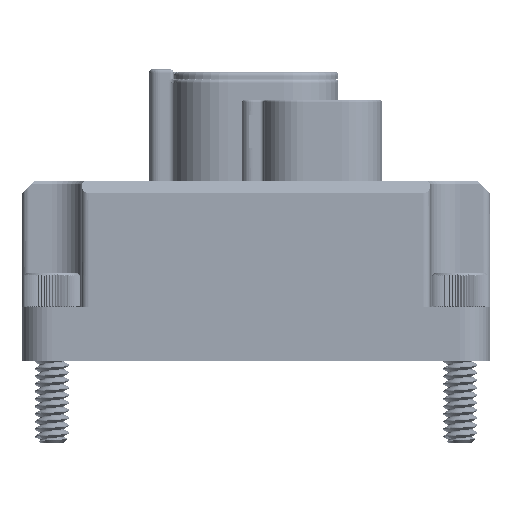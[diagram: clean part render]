
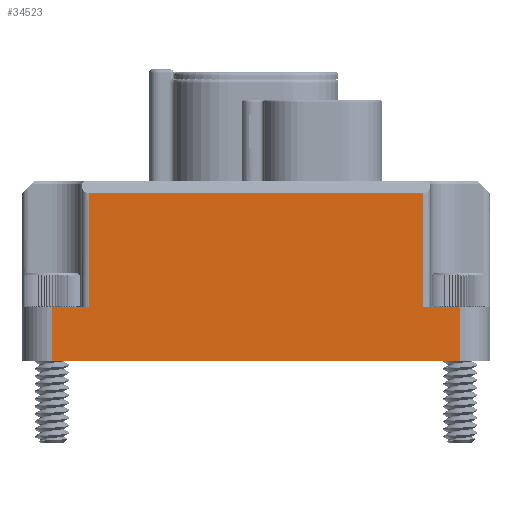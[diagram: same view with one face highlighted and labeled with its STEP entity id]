
A CAD part, front view. The second image highlights one B-rep face of the part: STEP entity #34523.
In plain terms, the highlighted planar face has unit normal (0, -1, 0).
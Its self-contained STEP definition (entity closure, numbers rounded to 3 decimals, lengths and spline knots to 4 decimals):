
#5664=FACE_OUTER_BOUND('',#7802,.T.);
#7802=EDGE_LOOP('',(#29452,#29453,#29454,#29455,#29456,#29457,#29458,#29459));
#10352=LINE('',#71145,#12938);
#10354=LINE('',#71151,#12940);
#10356=LINE('',#71157,#12942);
#10357=LINE('',#71159,#12943);
#10358=LINE('',#71161,#12944);
#10359=LINE('',#71163,#12945);
#10360=LINE('',#71165,#12946);
#10361=LINE('',#71166,#12947);
#12938=VECTOR('',#46745,0.3937);
#12940=VECTOR('',#46751,0.3937);
#12942=VECTOR('',#46757,0.3937);
#12943=VECTOR('',#46758,0.3937);
#12944=VECTOR('',#46759,0.3937);
#12945=VECTOR('',#46760,0.3937);
#12946=VECTOR('',#46761,0.3937);
#12947=VECTOR('',#46762,0.3937);
#15871=VERTEX_POINT('',#71142);
#15872=VERTEX_POINT('',#71144);
#15874=VERTEX_POINT('',#71150);
#15876=VERTEX_POINT('',#71156);
#15877=VERTEX_POINT('',#71158);
#15878=VERTEX_POINT('',#71160);
#15879=VERTEX_POINT('',#71162);
#15880=VERTEX_POINT('',#71164);
#20546=EDGE_CURVE('',#15871,#15872,#10352,.T.);
#20549=EDGE_CURVE('',#15874,#15872,#10354,.T.);
#20552=EDGE_CURVE('',#15876,#15871,#10356,.T.);
#20553=EDGE_CURVE('',#15876,#15877,#10357,.T.);
#20554=EDGE_CURVE('',#15878,#15877,#10358,.T.);
#20555=EDGE_CURVE('',#15878,#15879,#10359,.F.);
#20556=EDGE_CURVE('',#15879,#15880,#10360,.T.);
#20557=EDGE_CURVE('',#15880,#15874,#10361,.T.);
#29452=ORIENTED_EDGE('',*,*,#20546,.F.);
#29453=ORIENTED_EDGE('',*,*,#20552,.F.);
#29454=ORIENTED_EDGE('',*,*,#20553,.T.);
#29455=ORIENTED_EDGE('',*,*,#20554,.F.);
#29456=ORIENTED_EDGE('',*,*,#20555,.T.);
#29457=ORIENTED_EDGE('',*,*,#20556,.T.);
#29458=ORIENTED_EDGE('',*,*,#20557,.T.);
#29459=ORIENTED_EDGE('',*,*,#20549,.T.);
#32856=PLANE('',#37898);
#34523=ADVANCED_FACE('',(#5664),#32856,.T.);
#37898=AXIS2_PLACEMENT_3D('',#71155,#46755,#46756);
#46745=DIRECTION('',(1.,0.,0.));
#46751=DIRECTION('',(0.,0.,1.));
#46755=DIRECTION('center_axis',(0.,-1.,0.));
#46756=DIRECTION('ref_axis',(1.,0.,0.));
#46757=DIRECTION('',(0.,0.,1.));
#46758=DIRECTION('',(-1.,0.,0.));
#46759=DIRECTION('',(0.,0.,1.));
#46760=DIRECTION('',(-1.,0.,0.));
#46761=DIRECTION('',(0.,0.,1.));
#46762=DIRECTION('',(-1.,0.,0.));
#71142=CARTESIAN_POINT('',(-0.925,-5.1551,-0.671));
#71144=CARTESIAN_POINT('',(0.925,-5.1551,-0.671));
#71145=CARTESIAN_POINT('',(-0.565,-5.1551,-0.671));
#71150=CARTESIAN_POINT('',(0.925,-5.1551,-1.302));
#71151=CARTESIAN_POINT('',(0.925,-5.1551,-0.602));
#71155=CARTESIAN_POINT('Origin',(-1.13,-5.1551,-0.727));
#71156=CARTESIAN_POINT('',(-0.925,-5.1551,-1.302));
#71157=CARTESIAN_POINT('',(-0.925,-5.1551,-0.602));
#71158=CARTESIAN_POINT('',(-1.13,-5.1551,-1.302));
#71159=CARTESIAN_POINT('',(-0.565,-5.1551,-1.302));
#71160=CARTESIAN_POINT('',(-1.13,-5.1551,-1.602));
#71161=CARTESIAN_POINT('',(-1.13,-5.1551,-0.727));
#71162=CARTESIAN_POINT('',(1.13,-5.1551,-1.602));
#71163=CARTESIAN_POINT('',(0.565,-5.1551,-1.602));
#71164=CARTESIAN_POINT('',(1.13,-5.1551,-1.302));
#71165=CARTESIAN_POINT('',(1.13,-5.1551,-0.727));
#71166=CARTESIAN_POINT('',(-0.565,-5.1551,-1.302));
